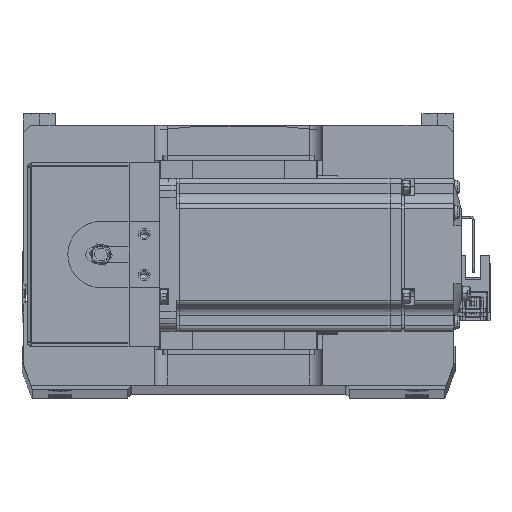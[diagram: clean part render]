
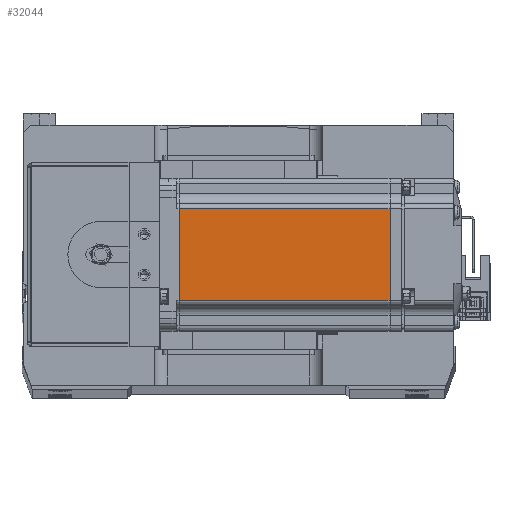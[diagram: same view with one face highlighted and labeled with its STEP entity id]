
A CAD part, top view. The second image highlights one B-rep face of the part: STEP entity #32044.
In plain terms, the highlighted planar face has unit normal (0, 0, 1) as drawn and (0, 1, 0) by its records, which use the part's own axes.
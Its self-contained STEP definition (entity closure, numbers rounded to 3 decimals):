
#1302 = VERTEX_POINT ( 'NONE', #8798 ) ;
#1696 = ORIENTED_EDGE ( 'NONE', *, *, #22353, .F. ) ;
#3109 = LINE ( 'NONE', #19967, #8367 ) ;
#3725 = PLANE ( 'NONE',  #17470 ) ;
#7976 = DIRECTION ( 'NONE',  ( 0., 0., 1. ) ) ;
#8367 = VECTOR ( 'NONE', #23556, 1000. ) ;
#8682 = ORIENTED_EDGE ( 'NONE', *, *, #41514, .T. ) ;
#8798 = CARTESIAN_POINT ( 'NONE',  ( -90.45, 30., 18. ) ) ;
#10221 = VECTOR ( 'NONE', #14053, 1000. ) ;
#13658 = DIRECTION ( 'NONE',  ( 1., 0., 0. ) ) ;
#14053 = DIRECTION ( 'NONE',  ( -1., 0., 0. ) ) ;
#14171 = CARTESIAN_POINT ( 'NONE',  ( -7.75, 30., 0. ) ) ;
#15628 = ORIENTED_EDGE ( 'NONE', *, *, #26095, .T. ) ;
#16398 = VECTOR ( 'NONE', #13658, 1000. ) ;
#17415 = CARTESIAN_POINT ( 'NONE',  ( -6.5, 30., -18. ) ) ;
#17470 = AXIS2_PLACEMENT_3D ( 'NONE', #34528, #42192, #7976 ) ;
#18356 = CARTESIAN_POINT ( 'NONE',  ( -7.75, 30., -18. ) ) ;
#19279 = ORIENTED_EDGE ( 'NONE', *, *, #20362, .T. ) ;
#19967 = CARTESIAN_POINT ( 'NONE',  ( -90.45, 30., 0. ) ) ;
#20192 = LINE ( 'NONE', #20415, #16398 ) ;
#20362 = EDGE_CURVE ( 'NONE', #30393, #20601, #26881, .T. ) ;
#20415 = CARTESIAN_POINT ( 'NONE',  ( -6.5, 30., 18. ) ) ;
#20601 = VERTEX_POINT ( 'NONE', #36766 ) ;
#20937 = LINE ( 'NONE', #14171, #37005 ) ;
#22353 = EDGE_CURVE ( 'NONE', #30393, #43375, #20937, .T. ) ;
#23556 = DIRECTION ( 'NONE',  ( 0., 0., 1. ) ) ;
#25444 = CARTESIAN_POINT ( 'NONE',  ( -7.75, 30., 18. ) ) ;
#26095 = EDGE_CURVE ( 'NONE', #1302, #43375, #20192, .T. ) ;
#26881 = LINE ( 'NONE', #17415, #10221 ) ;
#30393 = VERTEX_POINT ( 'NONE', #18356 ) ;
#32026 = FACE_OUTER_BOUND ( 'NONE', #32162, .T. ) ;
#32044 = ADVANCED_FACE ( 'NONE', ( #32026 ), #3725, .T. ) ;
#32162 = EDGE_LOOP ( 'NONE', ( #1696, #19279, #8682, #15628 ) ) ;
#34528 = CARTESIAN_POINT ( 'NONE',  ( -6.5, 30., 25. ) ) ;
#36766 = CARTESIAN_POINT ( 'NONE',  ( -90.45, 30., -18. ) ) ;
#37005 = VECTOR ( 'NONE', #42094, 1000. ) ;
#41514 = EDGE_CURVE ( 'NONE', #20601, #1302, #3109, .T. ) ;
#42094 = DIRECTION ( 'NONE',  ( 0., 0., 1. ) ) ;
#42192 = DIRECTION ( 'NONE',  ( 0., 1., 0. ) ) ;
#43375 = VERTEX_POINT ( 'NONE', #25444 ) ;
